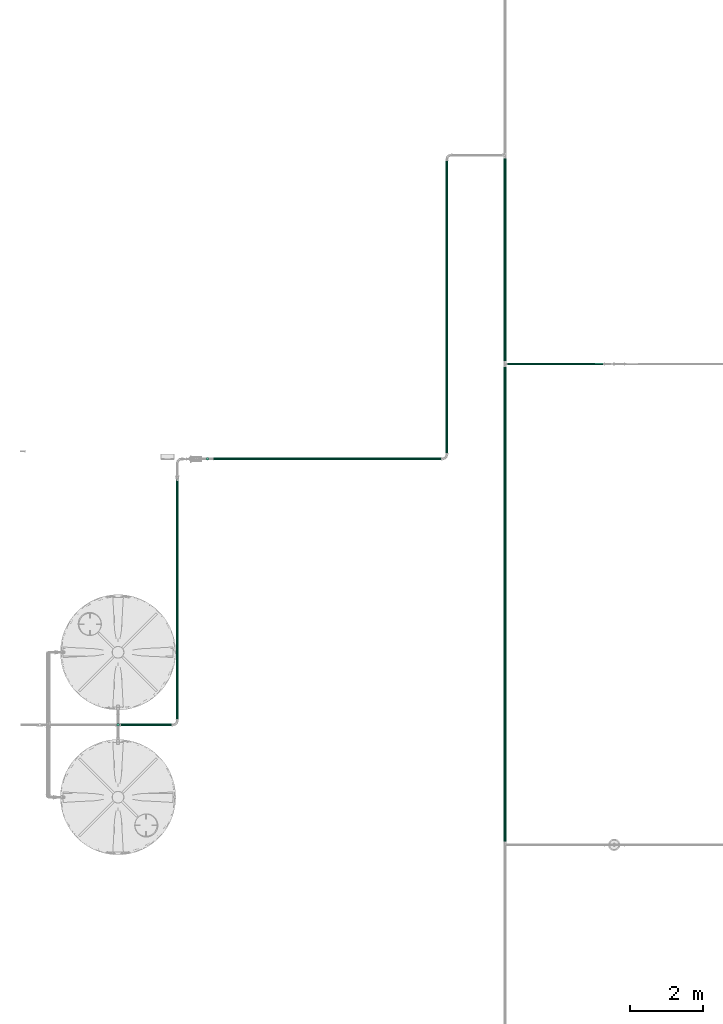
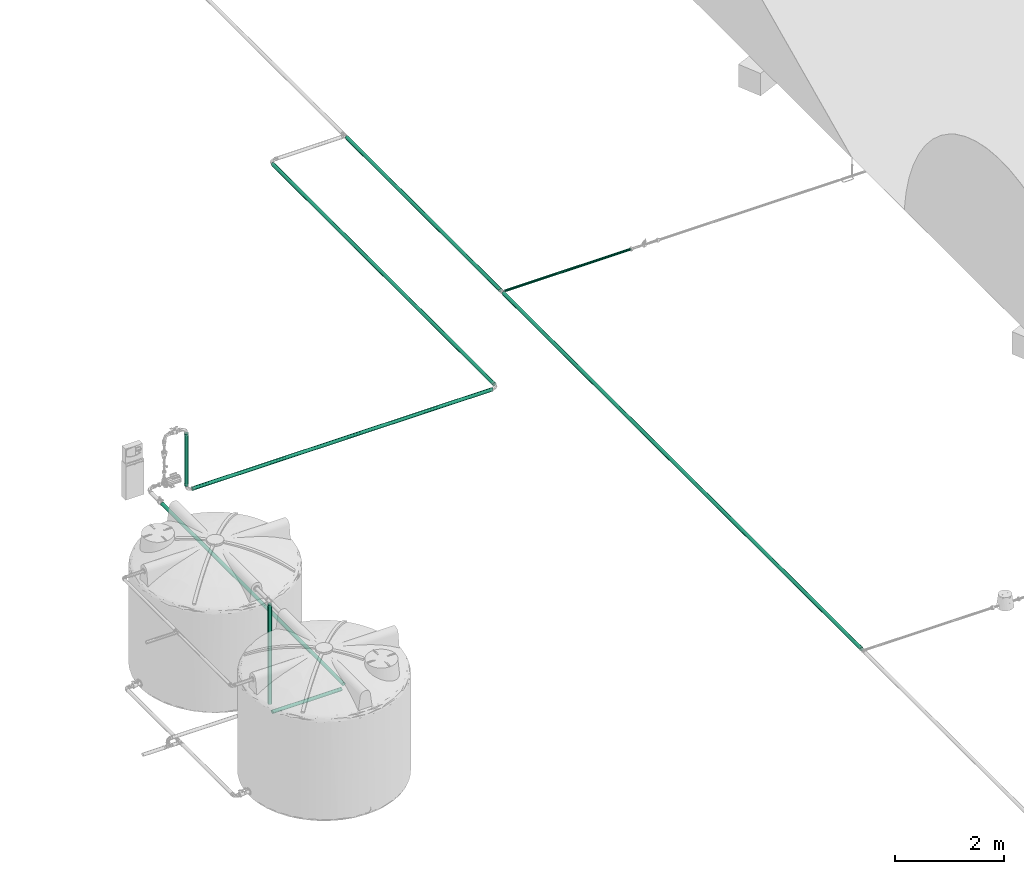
# One storey, part 6 of 166: 9 flow segments.
"""IFC2X3 building model written with IfcOpenShell, lengths in metres."""

import ifcopenshell
import ifcopenshell.guid

model = None  # the IFC model being written
_history = None  # IfcOwnerHistory: only IFC2X3 demands one
_inside = {}  # id of a spatial element -> (the spatial element, [elements in it])
_under = {}  # id of a project, library or spatial element -> (it, [spatial elements below it])
_declared = {}  # id of a project -> (the project, [libraries it declares])
_typed = {}  # id of a type object -> (the type object, [elements of that type])
_made_of = {}  # id of a material, layer set ... -> (it, [elements and type objects made of it])


def new_model(schema):
    """Start an empty IFC model of exactly this schema.

    Asked for "IFC4X3", IfcOpenShell would pick the latest addendum, in which some entities
    have other attributes; the version numbers below select the first issue.
    IFC2X3 requires an IfcOwnerHistory on every rooted entity: one is made here for all.
    """
    global model, _history
    if schema == "IFC4X3":
        model = ifcopenshell.file(schema_version=(4, 3, 0, 0))
    else:
        model = ifcopenshell.file(schema=schema)
    _inside.clear()
    _under.clear()
    _declared.clear()
    _typed.clear()
    _made_of.clear()
    _history = None
    if model.schema == "IFC2X3":
        org = make("IfcOrganization", Name="unknown")
        user = make(
            "IfcPersonAndOrganization",
            ThePerson=make("IfcPerson", FamilyName="unknown"),
            TheOrganization=org,
        )
        app = make(
            "IfcApplication",
            ApplicationDeveloper=org,
            Version="unknown",
            ApplicationFullName="unknown",
            ApplicationIdentifier="unknown",
        )
        _history = make(
            "IfcOwnerHistory",
            OwningUser=user,
            OwningApplication=app,
            ChangeAction="ADDED",
            CreationDate=0,
        )
    return model


def make(cls, **values):
    """One entity of the class cls with the attributes given. An attribute that is None is left unset."""
    return model.create_entity(
        cls, **{name: value for name, value in values.items() if value is not None}
    )


def entity(cls, *values):
    """Any entity or typed value of the class cls, its attributes in the order of the schema. None: left unset."""
    e = model.create_entity(cls)
    for i, value in enumerate(values):
        if value is not None:
            e[i] = value
    return e


def rooted(cls, **values):
    """An entity with a GlobalId (a new one), such as an element, a storey or a relation."""
    return make(cls, GlobalId=ifcopenshell.guid.new(), OwnerHistory=_history, **values)


def si_unit(unit_type, name, prefix=None):
    """IfcSIUnit, for example si_unit("LENGTHUNIT", "METRE", prefix="MILLI")."""
    return make("IfcSIUnit", UnitType=unit_type, Prefix=prefix, Name=name)


def converted_unit(unit_type, name, factor, base, dimensions=None, offset=None):
    """IfcConversionBasedUnit, such as the inch: factor (a typed value) times the base unit."""
    return make(
        "IfcConversionBasedUnit"
        if offset is None
        else "IfcConversionBasedUnitWithOffset",
        ConversionOffset=offset,
        Dimensions=None
        if dimensions is None
        else entity("IfcDimensionalExponents", *dimensions),
        UnitType=unit_type,
        Name=name,
        ConversionFactor=make(
            "IfcMeasureWithUnit", ValueComponent=factor, UnitComponent=base
        ),
    )


def assignment(units):
    """IfcUnitAssignment: the units of a project."""
    return None if units is None else make("IfcUnitAssignment", Units=units)


def point(xyz):
    """IfcCartesianPoint."""
    return None if xyz is None else make("IfcCartesianPoint", Coordinates=xyz)


def direction(xyz):
    """IfcDirection."""
    return None if xyz is None else make("IfcDirection", DirectionRatios=xyz)


def frame(location, z_axis=None, x_axis=None):
    """IfcAxis2Placement3D, a coordinate frame: its origin and axes. An axis left out is left unset."""
    return make(
        "IfcAxis2Placement3D",
        Location=point(location),
        Axis=direction(z_axis),
        RefDirection=direction(x_axis),
    )


def frame_2d(location, x_axis=None):
    """IfcAxis2Placement2D, a coordinate frame in the plane: its origin and x axis."""
    return make(
        "IfcAxis2Placement2D", Location=point(location), RefDirection=direction(x_axis)
    )


def origin():
    """The frame at (0, 0, 0) with its axes left unset."""
    return frame((0.0, 0.0, 0.0))


def origin_2d_with_axis():
    """The frame at (0, 0) in the plane with the x axis (1, 0) written out."""
    return frame_2d((0.0, 0.0), x_axis=(1.0, 0.0))


def place(relative_to, where):
    """IfcLocalPlacement: puts the frame where relative to a parent placement (None: the world)."""
    return make(
        "IfcLocalPlacement", PlacementRelTo=relative_to, RelativePlacement=where
    )


def context(
    kind, dimensions, precision=None, world=None, true_north=None, identifier=None
):
    """IfcGeometricRepresentationContext, for example the 3D "Model" context."""
    return make(
        "IfcGeometricRepresentationContext",
        ContextIdentifier=identifier,
        ContextType=kind,
        CoordinateSpaceDimension=dimensions,
        Precision=precision,
        WorldCoordinateSystem=world,
        TrueNorth=true_north,
    )


def subcontext(parent, identifier, kind, view, scale=None):
    """IfcGeometricRepresentationSubContext, for example "Body" below "Model"."""
    return make(
        "IfcGeometricRepresentationSubContext",
        ContextIdentifier=identifier,
        ContextType=kind,
        ParentContext=parent,
        TargetScale=scale,
        TargetView=view,
    )


def project(units=None, contexts=None):
    """IfcProject with its units and contexts."""
    return rooted(
        "IfcProject",
        Name="project",
        RepresentationContexts=contexts,
        UnitsInContext=assignment(units),
    )


def spatial(cls, under=None, at=None, **own):
    """A site, building, storey or space (cls), placed at a placement, below another one or the project."""
    s = rooted(cls, ObjectPlacement=at, **own)
    if under is not None:
        _under.setdefault(under.id(), (under, []))[1].append(s)
    return s


def profile(cls, at=None, kind="AREA", **sizes):
    """A parametric profile (cls). Its sizes go by their IFC names, for example OverallWidth=200.0."""
    return make(cls, ProfileType=kind, Position=at, **sizes)


def circle(**sizes):
    """IfcCircleProfileDef."""
    return profile("IfcCircleProfileDef", **sizes)


def extrude(swept, where, along, depth):
    """IfcExtrudedAreaSolid: the profile swept, set in the frame where, extruded along a direction by depth."""
    return make(
        "IfcExtrudedAreaSolid",
        SweptArea=swept,
        Position=where,
        ExtrudedDirection=direction(along),
        Depth=depth,
    )


def shape(context_of_items, identifier, shape_type, items):
    """IfcShapeRepresentation: the items that make up one representation, for example the "Body"."""
    return make(
        "IfcShapeRepresentation",
        ContextOfItems=context_of_items,
        RepresentationIdentifier=identifier,
        RepresentationType=shape_type,
        Items=items,
    )


def made_of(thing, what):
    """Note that an element or type object is made of a material, layer set ...; save() writes the relation."""
    if what is not None:
        _made_of.setdefault(what.id(), (what, []))[1].append(thing)
    return thing


def type_object(cls, material=None, **own):
    """A type object (cls), such as IfcWallType, which elements share."""
    return made_of(rooted(cls, **own), material)


def element(
    cls,
    number,
    at=None,
    inside=None,
    cuts=None,
    type_object=None,
    material=None,
    context=None,
    identifier="Body",
    shape_type=None,
    held_by="IfcProductDefinitionShape",
    body=None,
    shapes=None,
    **own,
):
    """One element of the class cls, such as IfcWall. Its Tag is "e" and its number.

    at: its placement. inside: the storey or other place that contains it. cuts: it is an
    opening in that element (IfcRelVoidsElement). A single representation is given by context,
    identifier, shape_type and body (its items); several are given by shapes. held_by: the class
    of the entity that holds the representations. save() writes the other relations.
    """
    e = rooted(cls, Tag="e%d" % number, ObjectPlacement=at, **own)
    if body is not None:
        shapes = [shape(context, identifier, shape_type, body)]
    if shapes is not None:
        e.Representation = make(held_by, Representations=shapes)
    if inside is not None:
        _inside.setdefault(inside.id(), (inside, []))[1].append(e)
    if cuts is not None:
        rooted(
            "IfcRelVoidsElement", RelatingBuildingElement=cuts, RelatedOpeningElement=e
        )
    if type_object is not None:
        _typed.setdefault(type_object.id(), (type_object, []))[1].append(e)
    return made_of(e, material)


def aggregate(whole, parts):
    """IfcRelAggregates: a whole, such as a stair, and the parts it consists of."""
    return rooted("IfcRelAggregates", RelatingObject=whole, RelatedObjects=parts)


def save(model, path):
    """Write the relations noted so far, then the file.

    IfcRelAggregates (storeys below a building ...), IfcRelContainedInSpatialStructure (elements
    in a storey), IfcRelDefinesByType, IfcRelAssociatesMaterial and IfcRelDeclares: one each for
    every whole, place, type object, material and project.
    """
    for whole, parts in _under.values():
        aggregate(whole, parts)
    for where, things in _inside.values():
        rooted(
            "IfcRelContainedInSpatialStructure",
            RelatedElements=things,
            RelatingStructure=where,
        )
    for kind, things in _typed.values():
        rooted("IfcRelDefinesByType", RelatedObjects=things, RelatingType=kind)
    for what, things in _made_of.values():
        rooted("IfcRelAssociatesMaterial", RelatedObjects=things, RelatingMaterial=what)
    for by, libraries in _declared.values():
        rooted("IfcRelDeclares", RelatingContext=by, RelatedDefinitions=libraries)
    model.write(path)


model = new_model("IFC2X3")

# Units and contexts
model_context = context("Model", 3, precision=1e-05, world=origin(), true_north=direction((6.123233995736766e-17, 1.0)))
body_context = subcontext(model_context, "Body", "Model", "MODEL_VIEW")
ifc_project = project(units=[si_unit("LENGTHUNIT", "METRE"), converted_unit("PLANEANGLEUNIT", "DEGREE", entity("IfcPlaneAngleMeasure", 0.017453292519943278), si_unit("PLANEANGLEUNIT", "RADIAN"), dimensions=[0, 0, 0, 0, 0, 0, 0]), si_unit("AREAUNIT", "SQUARE_METRE")], contexts=[model_context])

# Site, building, storey
site_placement = place(None, origin())
site = spatial("IfcSite", under=ifc_project, at=site_placement, Name="Default", CompositionType="ELEMENT")
building_placement = place(site_placement, origin())
building = spatial("IfcBuilding", under=site, at=building_placement, Name="CASA DE ACOLHIDA PARA IDOSOS", CompositionType="ELEMENT")
storey_placement = place(building_placement, frame((0.0, 0.0, -1.7499999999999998)))
storey = spatial("IfcBuildingStorey", under=building, at=storey_placement, Name="IMPLANTAÇÃO DRENAGEM", CompositionType="ELEMENT", Elevation=-1.7499999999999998)

# Flow segments
pipe_segment_type_1 = type_object("IfcPipeSegmentType", Name="Tipos de tubos:AF_Tubo Marrom Soldável", PredefinedType="NOTDEFINED")
flow_segment_1_placement = place(storey_placement, origin())
element("IfcFlowSegment", 1, at=flow_segment_1_placement, inside=storey, type_object=pipe_segment_type_1, Name="Tipos de tubos:AF_Tubo Marrom Soldável", ObjectType="Tipos de tubos:AF_Tubo Marrom Soldável", context=body_context, shape_type="SweptSolid", body=[
    extrude(circle(Radius=0.037500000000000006, at=origin_2d_with_axis()), frame((-60.188002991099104, 7.052060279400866, -0.19999999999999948), z_axis=(1.0, 0.0, 0.0), x_axis=(0.0, -1.0, 0.0)), (0.0, 0.0, 1.0), 6.340291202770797),
])
flow_segment_2_placement = place(storey_placement, origin())
element("IfcFlowSegment", 2, at=flow_segment_2_placement, inside=storey, type_object=pipe_segment_type_1, Name="Tipos de tubos:AF_Tubo Marrom Soldável", ObjectType="Tipos de tubos:AF_Tubo Marrom Soldável", context=body_context, shape_type="SweptSolid", body=[
    extrude(circle(Radius=0.037500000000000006, at=origin_2d_with_axis()), frame((-53.73245178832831, 7.167320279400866, -0.1999999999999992), z_axis=(0.0, 1.0, 0.0), x_axis=(1.0, 0.0, 0.0)), (0.0, 0.0, 1.0), 8.10643644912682),
])
flow_segment_3_placement = place(storey_placement, origin())
element("IfcFlowSegment", 3, at=flow_segment_3_placement, inside=storey, type_object=pipe_segment_type_1, Name="Tipos de tubos:AF_Tubo Marrom Soldável", ObjectType="Tipos de tubos:AF_Tubo Marrom Soldável", context=body_context, shape_type="SweptSolid", body=[
    extrude(circle(Radius=0.037500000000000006, at=frame_2d((0.0, -2.707167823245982e-16), x_axis=(1.0, 0.0))), frame((-52.13705372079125, 9.708942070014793, -0.2000000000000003), z_axis=(0.0, 1.0, 0.0), x_axis=(1.0, 0.0, 0.0)), (0.0, 0.0, 1.0), 5.6247746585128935),
])
flow_segment_4_placement = place(storey_placement, origin())
element("IfcFlowSegment", 4, at=flow_segment_4_placement, inside=storey, type_object=pipe_segment_type_1, Name="Tipos de tubos:AF_Tubo Marrom Soldável", ObjectType="Tipos de tubos:AF_Tubo Marrom Soldável", context=body_context, shape_type="SweptSolid", body=[
    extrude(circle(Radius=0.025, at=frame_2d((0.0, -2.707167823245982e-16), x_axis=(1.0, 0.0))), frame((-52.088353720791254, 9.654942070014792, -0.2000000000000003), z_axis=(1.0, 0.0, 0.0), x_axis=(0.0, -1.0, 0.0)), (0.0, 0.0, 1.0), 2.671900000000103),
])
flow_segment_5_placement = place(storey_placement, origin())
element("IfcFlowSegment", 5, at=flow_segment_5_placement, inside=storey, type_object=pipe_segment_type_1, Name="Tipos de tubos:AF_Tubo Marrom Soldável", ObjectType="Tipos de tubos:AF_Tubo Marrom Soldável", context=body_context, shape_type="SweptSolid", body=[
    extrude(circle(Radius=0.037500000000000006, at=frame_2d((0.0, -2.707167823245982e-16), x_axis=(1.0, 0.0))), frame((-52.13705372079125, -3.491057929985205, -0.2000000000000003), z_axis=(0.0, 1.0, 0.0), x_axis=(1.0, 0.0, 0.0)), (0.0, 0.0, 1.0), 13.091999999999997),
])
flow_segment_6_placement = place(storey_placement, origin())
element("IfcFlowSegment", 6, at=flow_segment_6_placement, inside=storey, type_object=pipe_segment_type_1, Name="Tipos de tubos:AF_Tubo Marrom Soldável", ObjectType="Tipos de tubos:AF_Tubo Marrom Soldável", context=body_context, shape_type="SweptSolid", body=[
    extrude(circle(Radius=0.037500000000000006, at=frame_2d((1.0151879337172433e-16, 0.0), x_axis=(1.0, 0.0))), frame((-62.70869531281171, -0.2513781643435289, 0.13343317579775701), z_axis=(1.0, 0.0, 0.0), x_axis=(0.0, -1.0, 0.0)), (0.0, 0.0, 1.0), 1.4605297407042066),
])
flow_segment_7_placement = place(storey_placement, origin())
element("IfcFlowSegment", 7, at=flow_segment_7_placement, inside=storey, type_object=pipe_segment_type_1, Name="Tipos de tubos:AF_Tubo Marrom Soldável", ObjectType="Tipos de tubos:AF_Tubo Marrom Soldável", context=body_context, shape_type="SweptSolid", body=[
    extrude(circle(Radius=0.037500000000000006, at=origin_2d_with_axis()), frame((-60.30326299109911, 7.052060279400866, -0.08473999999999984)), (0.0, 0.0, 1.0), 1.1694799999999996),
])
flow_segment_8_placement = place(storey_placement, origin())
element("IfcFlowSegment", 8, at=flow_segment_8_placement, inside=storey, type_object=pipe_segment_type_1, Name="Tipos de tubos:AF_Tubo Marrom Soldável", ObjectType="Tipos de tubos:AF_Tubo Marrom Soldável", context=body_context, shape_type="SweptSolid", body=[
    extrude(circle(Radius=0.037500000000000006, at=origin_2d_with_axis()), frame((-61.132905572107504, -0.13611816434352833, 0.13340000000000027), z_axis=(0.0, 1.0, 0.0), x_axis=(1.0, 0.0, 0.0)), (0.0, 0.0, 1.0), 6.627460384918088),
])
pipe_segment_type_2 = type_object("IfcPipeSegmentType", Name="Tipos de tubos:AF_Tubo Branco Roscável", PredefinedType="NOTDEFINED")
flow_segment_9_placement = place(storey_placement, origin())
element("IfcFlowSegment", 9, at=flow_segment_9_placement, inside=storey, type_object=pipe_segment_type_2, Name="Tipos de tubos:AF_Tubo Branco Roscável", ObjectType="Tipos de tubos:AF_Tubo Branco Roscável", context=body_context, shape_type="SweptSolid", body=[
    extrude(circle(Radius=0.037500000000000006, at=frame_2d((0.0, -3.383959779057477e-17), x_axis=(1.0, 0.0))), frame((-62.75891005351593, -0.251378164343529, 0.3376999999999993)), (0.0, 0.0, 1.0), 2.2260000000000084),
])

save(model, "model.ifc")
